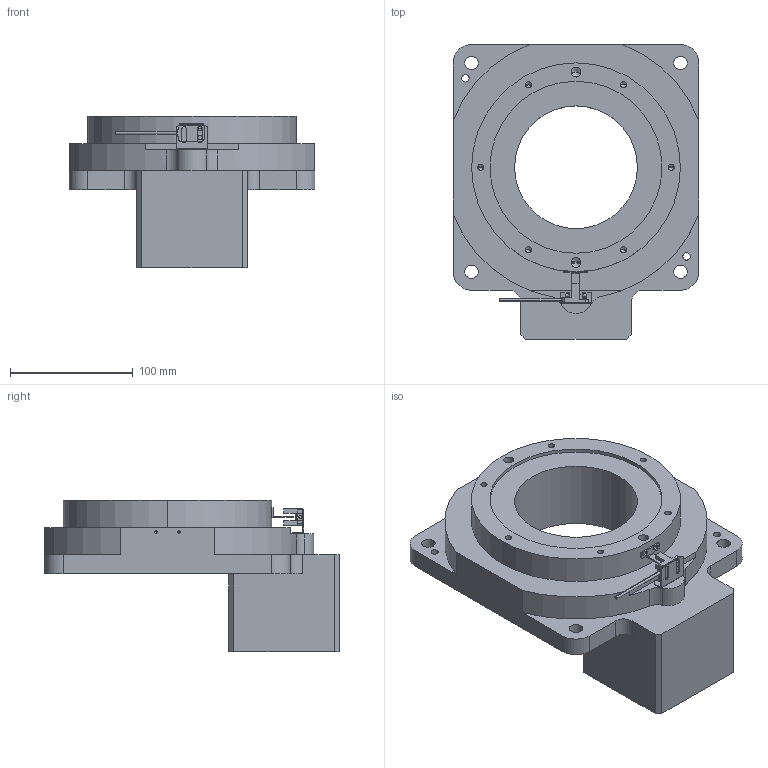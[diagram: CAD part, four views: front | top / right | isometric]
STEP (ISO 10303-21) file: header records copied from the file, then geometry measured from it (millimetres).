
FILE_DESCRIPTION (( 'STEP AP203' ), '1' );
FILE_NAME ('RTN200-10K-19-70-90-M5.STEP', '2024-05-21T10:18:22', ( '' ), ( '' ), 'SwSTEP 2.0', 'SolidWorks 2023', '' );
FILE_SCHEMA (( 'CONFIG_CONTROL_DESIGN' ));
Length unit declared in the file: millimetre
Products named in the file (1): RTN200-10K-19-70-90-M5
Bounding box: 200 x 240 x 123.5 mm (x, y, z)
Volume: 1931773.1 mm3; surface area: 165955.4 mm2
Topology: 4 solids, 6 shells, 266 faces, 703 edges, 435 vertices
Faces by surface type: cylinder 115, plane 111, cone 40
Entity records: 8079 total; most frequent: DIRECTION 1430, CARTESIAN_POINT 1365, ORIENTED_EDGE 1326, EDGE_CURVE 663, AXIS2_PLACEMENT_3D 500, VERTEX_POINT 435, LINE 430, VECTOR 430
